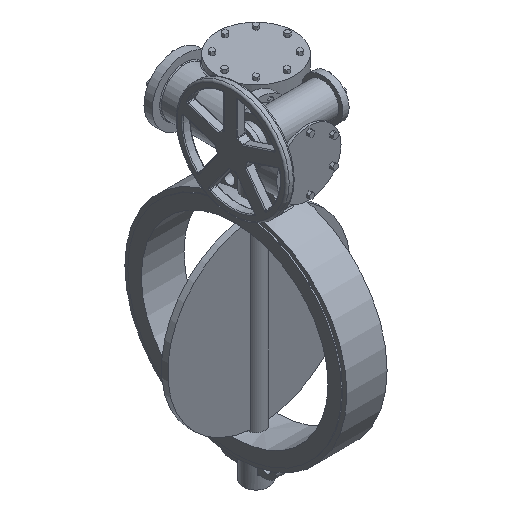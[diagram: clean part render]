
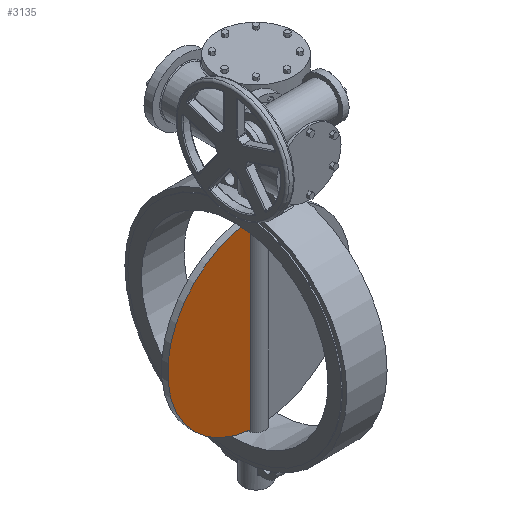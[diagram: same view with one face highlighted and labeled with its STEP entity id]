
A CAD part, isometric view. The second image highlights one B-rep face of the part: STEP entity #3135.
In plain terms, the highlighted planar face has unit normal (0, -1, 0).
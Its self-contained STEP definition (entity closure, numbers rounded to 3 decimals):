
#3135=ADVANCED_FACE('',(#7478),#7480,.T.);
#7478=FACE_BOUND('',#7479,.T.);
#7479=EDGE_LOOP('',(#10566,#10567));
#7480=PLANE('',#7481);
#7481=AXIS2_PLACEMENT_3D('',#7482,#7483,#7484);
#7482=CARTESIAN_POINT('',(0.,-7.5,0.));
#7483=DIRECTION('',(0.,-1.,0.));
#7484=DIRECTION('',(0.,0.,1.));
#10566=ORIENTED_EDGE('',*,*,#12139,.T.);
#10567=ORIENTED_EDGE('',*,*,#12219,.T.);
#12139=EDGE_CURVE('',#13912,#13909,#13913,.F.);
#12219=EDGE_CURVE('',#13909,#13912,#14032,.T.);
#13909=VERTEX_POINT('',#20643);
#13912=VERTEX_POINT('',#20697);
#13913=LINE('',#20698,#20699);
#14032=CIRCLE('',#21031,220.255);
#20643=CARTESIAN_POINT('',(-19.615,-7.5,219.38));
#20697=CARTESIAN_POINT('',(-19.615,-7.5,-219.38));
#20698=CARTESIAN_POINT('',(-19.615,-7.5,219.38));
#20699=VECTOR('',#20700,1.);
#20700=DIRECTION('',(0.,0.,-1.));
#21031=AXIS2_PLACEMENT_3D('',#21032,#21033,#21034);
#21032=CARTESIAN_POINT('',(0.,-7.5,0.));
#21033=DIRECTION('',(0.,-1.,0.));
#21034=DIRECTION('',(-0.089,0.,0.996));
